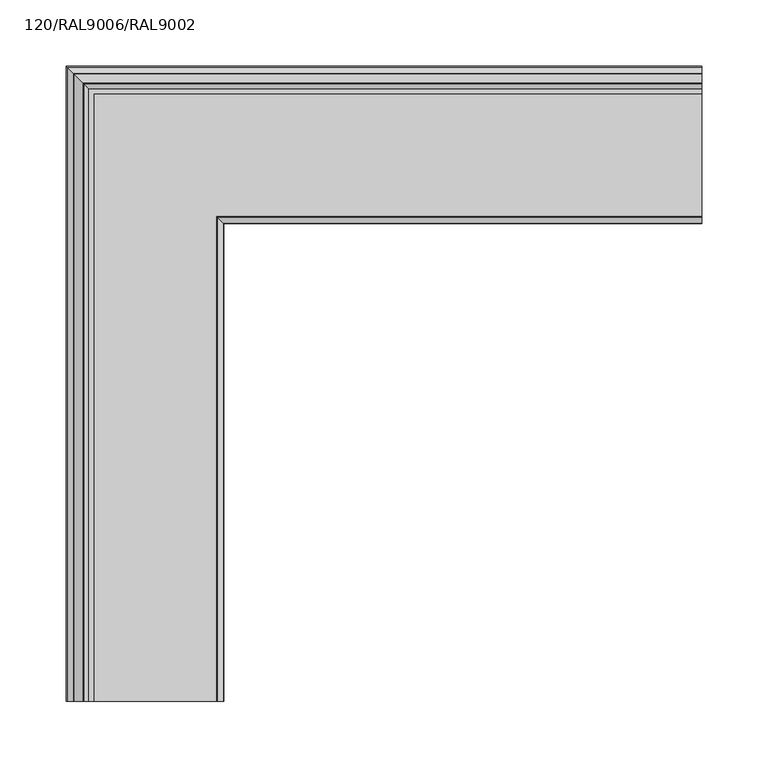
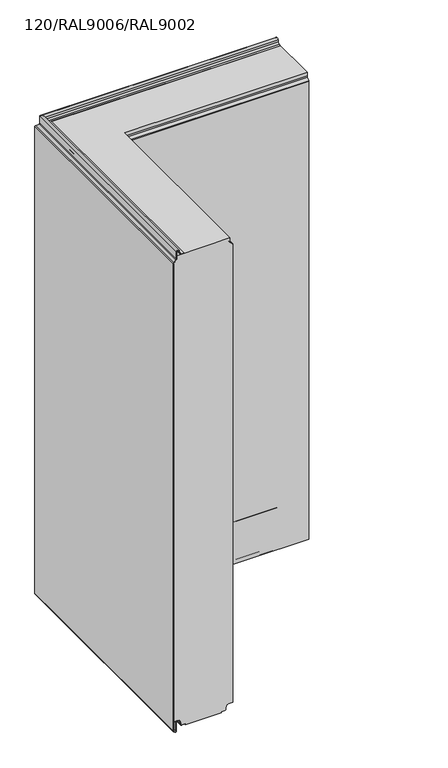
"""IFC4 building model written with IfcOpenShell, lengths in millimetres: plate geometry, TR_C_H_FTV_Corner_Tr_B : 120/RAL9006/RAL9002."""

import ifcopenshell
import ifcopenshell.guid

model = None  # the IFC model being written
_history = None  # IfcOwnerHistory: only IFC2X3 demands one
_inside = {}  # id of a spatial element -> (the spatial element, [elements in it])
_under = {}  # id of a project, library or spatial element -> (it, [spatial elements below it])
_declared = {}  # id of a project -> (the project, [libraries it declares])
_typed = {}  # id of a type object -> (the type object, [elements of that type])
_made_of = {}  # id of a material, layer set ... -> (it, [elements and type objects made of it])


def new_model(schema):
    """Start an empty IFC model of exactly this schema.

    Asked for "IFC4X3", IfcOpenShell would pick the latest addendum, in which some entities
    have other attributes; the version numbers below select the first issue.
    IFC2X3 requires an IfcOwnerHistory on every rooted entity: one is made here for all.
    """
    global model, _history
    if schema == "IFC4X3":
        model = ifcopenshell.file(schema_version=(4, 3, 0, 0))
    else:
        model = ifcopenshell.file(schema=schema)
    _inside.clear()
    _under.clear()
    _declared.clear()
    _typed.clear()
    _made_of.clear()
    _history = None
    if model.schema == "IFC2X3":
        org = make("IfcOrganization", Name="unknown")
        user = make(
            "IfcPersonAndOrganization",
            ThePerson=make("IfcPerson", FamilyName="unknown"),
            TheOrganization=org,
        )
        app = make(
            "IfcApplication",
            ApplicationDeveloper=org,
            Version="unknown",
            ApplicationFullName="unknown",
            ApplicationIdentifier="unknown",
        )
        _history = make(
            "IfcOwnerHistory",
            OwningUser=user,
            OwningApplication=app,
            ChangeAction="ADDED",
            CreationDate=0,
        )
    return model


def make(cls, **values):
    """One entity of the class cls with the attributes given. An attribute that is None is left unset."""
    return model.create_entity(
        cls, **{name: value for name, value in values.items() if value is not None}
    )


def rooted(cls, **values):
    """An entity with a GlobalId (a new one), such as an element, a storey or a relation."""
    return make(cls, GlobalId=ifcopenshell.guid.new(), OwnerHistory=_history, **values)


def si_unit(unit_type, name, prefix=None):
    """IfcSIUnit, for example si_unit("LENGTHUNIT", "METRE", prefix="MILLI")."""
    return make("IfcSIUnit", UnitType=unit_type, Prefix=prefix, Name=name)


def assignment(units):
    """IfcUnitAssignment: the units of a project."""
    return None if units is None else make("IfcUnitAssignment", Units=units)


def point(xyz):
    """IfcCartesianPoint."""
    return None if xyz is None else make("IfcCartesianPoint", Coordinates=xyz)


def direction(xyz):
    """IfcDirection."""
    return None if xyz is None else make("IfcDirection", DirectionRatios=xyz)


def frame(location, z_axis=None, x_axis=None):
    """IfcAxis2Placement3D, a coordinate frame: its origin and axes. An axis left out is left unset."""
    return make(
        "IfcAxis2Placement3D",
        Location=point(location),
        Axis=direction(z_axis),
        RefDirection=direction(x_axis),
    )


def origin():
    """The frame at (0, 0, 0) with its axes left unset."""
    return frame((0.0, 0.0, 0.0))


def place(relative_to, where):
    """IfcLocalPlacement: puts the frame where relative to a parent placement (None: the world)."""
    return make(
        "IfcLocalPlacement", PlacementRelTo=relative_to, RelativePlacement=where
    )


def context(
    kind, dimensions, precision=None, world=None, true_north=None, identifier=None
):
    """IfcGeometricRepresentationContext, for example the 3D "Model" context."""
    return make(
        "IfcGeometricRepresentationContext",
        ContextIdentifier=identifier,
        ContextType=kind,
        CoordinateSpaceDimension=dimensions,
        Precision=precision,
        WorldCoordinateSystem=world,
        TrueNorth=true_north,
    )


def project(units=None, contexts=None):
    """IfcProject with its units and contexts."""
    return rooted(
        "IfcProject",
        Name="project",
        RepresentationContexts=contexts,
        UnitsInContext=assignment(units),
    )


def spatial(cls, under=None, at=None, **own):
    """A site, building, storey or space (cls), placed at a placement, below another one or the project."""
    s = rooted(cls, ObjectPlacement=at, **own)
    if under is not None:
        _under.setdefault(under.id(), (under, []))[1].append(s)
    return s


def polyline(points):
    """IfcPolyline through the points."""
    return make("IfcPolyline", Points=[point(p) for p in points])


def circle_curve(where, radius):
    """IfcCircle in the frame where."""
    return make("IfcCircle", Position=where, Radius=radius)


def ellipse_curve(where, semi_axis1, semi_axis2):
    """IfcEllipse in the frame where."""
    return make(
        "IfcEllipse", Position=where, SemiAxis1=semi_axis1, SemiAxis2=semi_axis2
    )


def shape(context_of_items, identifier, shape_type, items):
    """IfcShapeRepresentation: the items that make up one representation, for example the "Body"."""
    return make(
        "IfcShapeRepresentation",
        ContextOfItems=context_of_items,
        RepresentationIdentifier=identifier,
        RepresentationType=shape_type,
        Items=items,
    )


def source(mapping_origin, context_of_items, identifier, shape_type, items):
    """IfcRepresentationMap: a shape defined once, which mapped items show again and again."""
    return make(
        "IfcRepresentationMap",
        MappingOrigin=mapping_origin,
        MappedRepresentation=shape(context_of_items, identifier, shape_type, items),
    )


def transform(
    local_origin,
    x_axis=None,
    y_axis=None,
    z_axis=None,
    scale=None,
    scale2=None,
    scale3=None,
    uniform=True,
):
    """IfcCartesianTransformationOperator3D, or its non-uniform kind. x_axis, y_axis, z_axis: its Axis1, 2, 3."""
    if uniform:
        return make(
            "IfcCartesianTransformationOperator3D",
            Axis1=direction(x_axis),
            Axis2=direction(y_axis),
            LocalOrigin=point(local_origin),
            Scale=scale,
            Axis3=direction(z_axis),
        )
    return make(
        "IfcCartesianTransformationOperator3DnonUniform",
        Axis1=direction(x_axis),
        Axis2=direction(y_axis),
        LocalOrigin=point(local_origin),
        Scale=scale,
        Axis3=direction(z_axis),
        Scale2=scale2,
        Scale3=scale3,
    )


def mapped(mapping_source, mapping_target):
    """IfcMappedItem: shows the shape of a source again, moved by a transform."""
    return make(
        "IfcMappedItem", MappingSource=mapping_source, MappingTarget=mapping_target
    )


def made_of(thing, what):
    """Note that an element or type object is made of a material, layer set ...; save() writes the relation."""
    if what is not None:
        _made_of.setdefault(what.id(), (what, []))[1].append(thing)
    return thing


def element(
    cls,
    number,
    at=None,
    inside=None,
    cuts=None,
    type_object=None,
    material=None,
    context=None,
    identifier="Body",
    shape_type=None,
    held_by="IfcProductDefinitionShape",
    body=None,
    shapes=None,
    **own,
):
    """One element of the class cls, such as IfcWall. Its Tag is "e" and its number.

    at: its placement. inside: the storey or other place that contains it. cuts: it is an
    opening in that element (IfcRelVoidsElement). A single representation is given by context,
    identifier, shape_type and body (its items); several are given by shapes. held_by: the class
    of the entity that holds the representations. save() writes the other relations.
    """
    e = rooted(cls, Tag="e%d" % number, ObjectPlacement=at, **own)
    if body is not None:
        shapes = [shape(context, identifier, shape_type, body)]
    if shapes is not None:
        e.Representation = make(held_by, Representations=shapes)
    if inside is not None:
        _inside.setdefault(inside.id(), (inside, []))[1].append(e)
    if cuts is not None:
        rooted(
            "IfcRelVoidsElement", RelatingBuildingElement=cuts, RelatedOpeningElement=e
        )
    if type_object is not None:
        _typed.setdefault(type_object.id(), (type_object, []))[1].append(e)
    return made_of(e, material)


def aggregate(whole, parts):
    """IfcRelAggregates: a whole, such as a stair, and the parts it consists of."""
    return rooted("IfcRelAggregates", RelatingObject=whole, RelatedObjects=parts)


def save(model, path):
    """Write the relations noted so far, then the file.

    IfcRelAggregates (storeys below a building ...), IfcRelContainedInSpatialStructure (elements
    in a storey), IfcRelDefinesByType, IfcRelAssociatesMaterial and IfcRelDeclares: one each for
    every whole, place, type object, material and project.
    """
    for whole, parts in _under.values():
        aggregate(whole, parts)
    for where, things in _inside.values():
        rooted(
            "IfcRelContainedInSpatialStructure",
            RelatedElements=things,
            RelatingStructure=where,
        )
    for kind, things in _typed.values():
        rooted("IfcRelDefinesByType", RelatedObjects=things, RelatingType=kind)
    for what, things in _made_of.values():
        rooted("IfcRelAssociatesMaterial", RelatedObjects=things, RelatingMaterial=what)
    for by, libraries in _declared.values():
        rooted("IfcRelDeclares", RelatingContext=by, RelatedDefinitions=libraries)
    model.write(path)


def plane_surface(at):
    """IfcPlane: the flat surface through the origin of the frame at, square to its z axis."""
    return make("IfcPlane", Position=at)


def cylinder_surface(at, radius):
    """IfcCylindricalSurface: all points at the distance radius from the z axis of the frame at."""
    return make("IfcCylindricalSurface", Position=at, Radius=radius)


def revolved_surface(curve, axis_point, axis_direction):
    """IfcSurfaceOfRevolution: the curve turned about the line through axis_point along axis_direction."""
    return make(
        "IfcSurfaceOfRevolution",
        SweptCurve=make("IfcArbitraryOpenProfileDef", ProfileType="CURVE", Curve=curve),
        AxisPosition=make("IfcAxis1Placement", Location=point(axis_point), Axis=direction(axis_direction)),
    )


def advanced_brep(points, edges, surfaces, faces):
    """IfcAdvancedBrep: a solid bounded by faces that lie on surfaces and meet in shared edges.

    An edge is (start, end): straight between two places in points (the first is 0);
    or (start, end, curve); or (start, end, curve, False) where it runs against its curve.
    A face is (place in surfaces, loops), or (place, loops, False) where it looks against
    its surface's normal. A loop lists edges by number (the first is 1), with a minus sign
    where the edge is run from its end to its start. The first loop is the outer one.
    """
    corners = [point(p) for p in points]
    vertices = [make("IfcVertexPoint", VertexGeometry=c) for c in corners]
    made = []
    for start, end, *more in edges:
        made.append(
            make(
                "IfcEdgeCurve",
                EdgeStart=vertices[start],
                EdgeEnd=vertices[end],
                EdgeGeometry=more[0] if more else make("IfcPolyline", Points=[corners[start], corners[end]]),
                SameSense=more[1] if len(more) > 1 else True,
            )
        )
    hull = []
    for where, loops, *sense in faces:
        bounds = []
        for j, loop in enumerate(loops):
            ring = [make("IfcOrientedEdge", EdgeElement=made[abs(k) - 1], Orientation=k > 0) for k in loop]
            bounds.append(
                make(
                    "IfcFaceOuterBound" if j == 0 else "IfcFaceBound",
                    Bound=make("IfcEdgeLoop", EdgeList=ring),
                    Orientation=True,
                )
            )
        hull.append(make("IfcAdvancedFace", Bounds=bounds, FaceSurface=surfaces[where], SameSense=sense[0] if sense else True))
    return make("IfcAdvancedBrep", Outer=make("IfcClosedShell", CfsFaces=hull))


def plate_120_ral9006_ral9002_db5e3afc(model_context):
    return source(origin(), model_context, "Body", "AdvancedBrep", [
        advanced_brep(
        [(240.0, -6.8, 1000.0), (240.0, -113.2, 1000.0), (240.0, -113.2, 992.6000012), (240.0, -114.1665476, 990.2665488), (240.0, -118.5556349, 985.8774615), (240.0, -119.2, 984.3218266), (240.0, -119.2, 14.4000012), (240.0, -110.55, 14.4000012), (240.0, -106.364567, 10.8880059), (240.0, -105.2977418, 4.837739), (240.0, -102.3925589, 2.4000012), (240.0, -96.3, 2.4000012), (240.0, -96.3, 0.0), (240.0, -23.7, 0.0), (240.0, -23.7, 2.4000012), (240.0, -17.6074411, 2.4000012), (240.0, -14.7022582, 4.837739), (240.0, -13.635433, 10.8880059), (240.0, -9.45, 14.4000012), (240.0, -0.8, 14.4000012), (240.0, -0.8, 984.3218266), (240.0, -1.4443651, 985.8774615), (240.0, -5.8334524, 990.2665488), (240.0, -6.8, 992.6000012), (-233.2, -6.8, 1000.0), (-233.2, -480.0, 1000.0), (-126.8, -480.0, 1000.0), (-126.8, -113.2, 1000.0), (-126.8, -113.2, 992.6000012), (-125.8334524, -114.1665476, 990.2665488), (-121.4443651, -118.5556349, 985.8774615), (-120.8, -119.2, 984.3218266), (-120.8, -119.2, 14.4000012), (-120.8, -480.0, 14.4000012), (-129.45, -480.0, 14.4000012), (-129.45, -110.55, 14.4000012), (-133.635433, -106.364567, 10.8880059), (-134.7022582, -105.2977418, 4.837739), (-137.6074411, -102.3925589, 2.4000012), (-137.6074411, -480.0, 2.4000012), (-143.7, -480.0, 2.4000012), (-143.7, -96.3, 2.4000012), (-143.7, -96.3, 0.0), (-143.7, -480.0, 0.0), (-216.3, -480.0, 0.0), (-216.3, -23.7, 0.0), (-216.3, -23.7, 2.4000012), (-216.3, -480.0, 2.4000012), (-222.3925589, -480.0, 2.4000012), (-222.3925589, -17.6074411, 2.4000012), (-225.2977418, -14.7022582, 4.837739), (-226.364567, -13.635433, 10.8880059), (-230.55, -9.45, 14.4000012), (-230.55, -480.0, 14.4000012), (-239.2, -480.0, 14.4000012), (-239.2, -0.8, 14.4000012), (-239.2, -0.8, 984.3218266), (-238.5556349, -1.4443651, 985.8774615), (-234.1665476, -5.8334524, 990.2665488), (-233.2, -6.8, 992.6000012), (-233.2, -480.0, 992.6000012), (-234.1665476, -480.0, 990.2665488), (-238.5556349, -480.0, 985.8774615), (-239.2, -480.0, 984.3218266), (-226.364567, -480.0, 10.8880059), (-225.2977418, -480.0, 4.837739), (-134.7022582, -480.0, 4.837739), (-133.635433, -480.0, 10.8880059), (-120.8, -480.0, 984.3218266), (-121.4443651, -480.0, 985.8774615), (-125.8334524, -480.0, 990.2665488), (-126.8, -480.0, 992.6000012)],
        [
            (0, 1),
            (1, 2),
            (2, 3, circle_curve(frame((240.0, -116.5, 992.6000012), z_axis=(-1.0, 0.0, 0.0), x_axis=(0.0, -1.0, 0.0)), 3.3)),
            (3, 4),
            (4, 5, circle_curve(frame((240.0, -117.0, 984.3218266), z_axis=(1.0, 0.0, 0.0), x_axis=(0.0, -1.0, 0.0)), 2.2)),
            (5, 6),
            (6, 7),
            (7, 8, circle_curve(frame((240.0, -110.55, 10.1500012), z_axis=(-1.0, 0.0, 0.0), x_axis=(0.0, -1.0, 0.0)), 4.25)),
            (8, 9),
            (9, 10, circle_curve(frame((240.0, -102.3925589, 5.3500012), z_axis=(1.0, 0.0, 0.0), x_axis=(0.0, -1.0, 0.0)), 2.95)),
            (10, 11),
            (11, 12),
            (12, 13),
            (13, 14),
            (14, 15),
            (15, 16, circle_curve(frame((240.0, -17.6074411, 5.3500012), z_axis=(1.0, 0.0, 0.0), x_axis=(0.0, -1.0, 0.0)), 2.95)),
            (16, 17),
            (17, 18, circle_curve(frame((240.0, -9.45, 10.1500012), z_axis=(-1.0, 0.0, 0.0), x_axis=(0.0, -1.0, 0.0)), 4.25)),
            (18, 19),
            (19, 20),
            (20, 21, circle_curve(frame((240.0, -3.0, 984.3218266), z_axis=(1.0, 0.0, 0.0), x_axis=(0.0, -1.0, 0.0)), 2.2)),
            (21, 22),
            (22, 23, circle_curve(frame((240.0, -3.5, 992.6000012), z_axis=(-1.0, 0.0, 0.0), x_axis=(0.0, -1.0, 0.0)), 3.3)),
            (23, 0),
            (0, 24),
            (24, 25),
            (25, 26),
            (26, 27),
            (27, 1),
            (27, 28),
            (28, 2),
            (28, 29, ellipse_curve(frame((-123.5, -116.5, 992.6000012), z_axis=(-0.7071067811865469, -0.7071067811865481, 0.0), x_axis=(-0.7071067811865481, 0.7071067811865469, 0.0)), 4.6669048, 3.3)),
            (29, 3),
            (29, 30),
            (30, 4),
            (30, 31, ellipse_curve(frame((-123.0, -117.0, 984.3218266), z_axis=(0.7071067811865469, 0.7071067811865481, 0.0), x_axis=(0.7071067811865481, -0.7071067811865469, 0.0)), 3.1112698, 2.2)),
            (31, 5),
            (31, 32),
            (32, 6),
            (32, 33),
            (33, 34),
            (34, 35),
            (35, 7),
            (35, 36, ellipse_curve(frame((-129.45, -110.55, 10.1500012), z_axis=(-0.7071067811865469, -0.7071067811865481, 0.0), x_axis=(-0.7071067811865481, 0.7071067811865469, 0.0)), 6.0104076, 4.25)),
            (36, 8),
            (36, 37),
            (37, 9),
            (37, 38, ellipse_curve(frame((-137.6074411, -102.3925589, 5.3500012), z_axis=(0.7071067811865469, 0.7071067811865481, 0.0), x_axis=(0.7071067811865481, -0.7071067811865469, 0.0)), 4.17193, 2.95)),
            (38, 10),
            (38, 39),
            (39, 40),
            (40, 41),
            (41, 11),
            (41, 42),
            (42, 12),
            (42, 43),
            (43, 44),
            (44, 45),
            (45, 13),
            (45, 46),
            (46, 14),
            (46, 47),
            (47, 48),
            (48, 49),
            (49, 15),
            (49, 50, ellipse_curve(frame((-222.3925589, -17.6074411, 5.3500012), z_axis=(0.7071067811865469, 0.7071067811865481, 0.0), x_axis=(0.7071067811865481, -0.7071067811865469, 0.0)), 4.17193, 2.95)),
            (50, 16),
            (50, 51),
            (51, 17),
            (51, 52, ellipse_curve(frame((-230.55, -9.45, 10.1500012), z_axis=(-0.7071067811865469, -0.7071067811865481, 0.0), x_axis=(-0.7071067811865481, 0.7071067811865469, 0.0)), 6.0104076, 4.25)),
            (52, 18),
            (52, 53),
            (53, 54),
            (54, 55),
            (55, 19),
            (55, 56),
            (56, 20),
            (56, 57, ellipse_curve(frame((-237.0, -3.0, 984.3218266), z_axis=(0.7071067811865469, 0.7071067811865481, 0.0), x_axis=(0.7071067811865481, -0.7071067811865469, 0.0)), 3.1112698, 2.2)),
            (57, 21),
            (57, 58),
            (58, 22),
            (58, 59, ellipse_curve(frame((-236.5, -3.5, 992.6000012), z_axis=(-0.7071067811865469, -0.7071067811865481, 0.0), x_axis=(-0.7071067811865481, 0.7071067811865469, 0.0)), 4.6669048, 3.3)),
            (59, 23),
            (59, 24),
            (25, 60),
            (60, 61, circle_curve(frame((-236.5, -480.0, 992.6000012), z_axis=(0.0, 1.0, 0.0), x_axis=(1.0, 0.0, 0.0)), 3.3)),
            (61, 62),
            (62, 63, circle_curve(frame((-237.0, -480.0, 984.3218266), z_axis=(0.0, -1.0, 0.0), x_axis=(1.0, 0.0, 0.0)), 2.2)),
            (63, 54),
            (53, 64, circle_curve(frame((-230.55, -480.0, 10.1500012), z_axis=(0.0, 1.0, 0.0), x_axis=(1.0, 0.0, 0.0)), 4.25)),
            (64, 65),
            (65, 48, circle_curve(frame((-222.3925589, -480.0, 5.3500012), z_axis=(0.0, -1.0, 0.0), x_axis=(1.0, 0.0, 0.0)), 2.95)),
            (47, 44),
            (43, 40),
            (39, 66, circle_curve(frame((-137.6074411, -480.0, 5.3500012), z_axis=(0.0, -1.0, 0.0), x_axis=(1.0, 0.0, 0.0)), 2.95)),
            (66, 67),
            (67, 34, circle_curve(frame((-129.45, -480.0, 10.1500012), z_axis=(0.0, 1.0, 0.0), x_axis=(1.0, 0.0, 0.0)), 4.25)),
            (33, 68),
            (68, 69, circle_curve(frame((-123.0, -480.0, 984.3218266), z_axis=(0.0, -1.0, 0.0), x_axis=(1.0, 0.0, 0.0)), 2.2)),
            (69, 70),
            (70, 71, circle_curve(frame((-123.5, -480.0, 992.6000012), z_axis=(0.0, 1.0, 0.0), x_axis=(1.0, 0.0, 0.0)), 3.3)),
            (71, 26),
            (71, 28),
            (70, 29),
            (69, 30),
            (68, 31),
            (67, 36),
            (66, 37),
            (65, 50),
            (64, 51),
            (63, 56),
            (62, 57),
            (61, 58),
            (60, 59),
        ],
        [
            plane_surface(frame((240.0, 0.0, 0.0), z_axis=(1.0, 0.0, 0.0), x_axis=(0.0, 0.0, 1.0))),
            plane_surface(frame((240.0, -6.8, 1000.0), z_axis=(0.0, 0.0, 1.0), x_axis=(-1.0, 0.0, 0.0))),
            plane_surface(frame((240.0, -113.2, 1000.0), z_axis=(0.0, -1.0, 0.0), x_axis=(-1.0, 0.0, 0.0))),
            revolved_surface(polyline([(-126.80000003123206, -119.8, 992.6000012), (240.0, -119.8, 992.6000012)]), (240.0, -116.5, 992.6000012), (-1.0, 0.0, 0.0)),
            plane_surface(frame((240.0, -114.1665476, 990.2665488), z_axis=(0.0, -0.707106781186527, 0.707106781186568), x_axis=(-1.0, 0.0, 0.0))),
            cylinder_surface(frame((240.0, -117.0, 984.3218266), z_axis=(1.0, 0.0, 0.0), x_axis=(0.0, -1.0, 0.0)), 2.2),
            plane_surface(frame((240.0, -119.2, 984.3218266), z_axis=(0.0, -1.0, 0.0), x_axis=(-1.0, 0.0, 0.0))),
            plane_surface(frame((240.0, -119.2, 14.4000012), z_axis=(0.0, 0.0, -1.0), x_axis=(-1.0, 0.0, 0.0))),
            revolved_surface(polyline([(-133.69999997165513, -114.8, 10.1500012), (240.0, -114.8, 10.1500012)]), (240.0, -110.55, 10.1500012), (-1.0, 0.0, 0.0)),
            plane_surface(frame((240.0, -106.364567, 10.8880059), z_axis=(0.0, -0.9848077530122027, -0.17364817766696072), x_axis=(-1.0, 0.0, 0.0))),
            cylinder_surface(frame((240.0, -102.3925589, 5.3500012), z_axis=(1.0, 0.0, 0.0), x_axis=(0.0, -1.0, 0.0)), 2.95),
            plane_surface(frame((240.0, -102.3925589, 2.4000012), z_axis=(0.0, 0.0, -1.0), x_axis=(-1.0, 0.0, 0.0))),
            plane_surface(frame((240.0, -96.3, 2.4000012), z_axis=(0.0, -1.0, 0.0), x_axis=(-1.0, 0.0, 0.0))),
            plane_surface(frame((240.0, -96.3, 0.0), z_axis=(0.0, 0.0, -1.0), x_axis=(-1.0, 0.0, 0.0))),
            plane_surface(frame((240.0, -23.7, 0.0), z_axis=(0.0, 1.0, 0.0), x_axis=(-1.0, 0.0, 0.0))),
            plane_surface(frame((240.0, -23.7, 2.4000012), z_axis=(0.0, 0.0, -1.0), x_axis=(-1.0, 0.0, 0.0))),
            cylinder_surface(frame((240.0, -17.6074411, 5.3500012), z_axis=(1.0, 0.0, 0.0), x_axis=(0.0, -1.0, 0.0)), 2.95),
            plane_surface(frame((240.0, -14.7022582, 4.837739), z_axis=(0.0, 0.9848077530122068, -0.1736481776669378), x_axis=(-1.0, 0.0, 0.0))),
            revolved_surface(polyline([(-234.79999997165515, -13.7, 10.1500012), (240.0, -13.7, 10.1500012)]), (240.0, -9.45, 10.1500012), (-1.0, 0.0, 0.0)),
            plane_surface(frame((240.0, -9.45, 14.4000012), z_axis=(0.0, 0.0, -1.0), x_axis=(-1.0, 0.0, 0.0))),
            plane_surface(frame((240.0, -0.8, 14.4000012), z_axis=(0.0, 1.0, 0.0), x_axis=(-1.0, 0.0, 0.0))),
            cylinder_surface(frame((240.0, -3.0, 984.3218266), z_axis=(1.0, 0.0, 0.0), x_axis=(0.0, -1.0, 0.0)), 2.2),
            plane_surface(frame((240.0, -1.4443651, 985.8774615), z_axis=(0.0, 0.7071067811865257, 0.7071067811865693), x_axis=(-1.0, 0.0, 0.0))),
            revolved_surface(polyline([(-239.80000003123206, -6.8, 992.6000012), (240.0, -6.8, 992.6000012)]), (240.0, -3.5, 992.6000012), (-1.0, 0.0, 0.0)),
            plane_surface(frame((240.0, -6.8, 992.6000012), z_axis=(0.0, 1.0, 0.0), x_axis=(-1.0, 0.0, 0.0))),
            plane_surface(frame((-240.0, -480.0, 0.0), z_axis=(0.0, -1.0, 0.0), x_axis=(0.0, 0.0, 1.0))),
            plane_surface(frame((-126.8, -113.2, 1000.0), z_axis=(1.0, 0.0, 0.0), x_axis=(0.0, -1.0, 0.0))),
            revolved_surface(polyline([(-120.2, -480.0, 992.6000012), (-120.2, -113.19999996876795, 992.6000012)]), (-123.5, 0.0, 992.6000012), (0.0, -1.0, 0.0)),
            plane_surface(frame((-125.8334524, -114.1665476, 990.2665488), z_axis=(0.707106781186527, 0.0, 0.707106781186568), x_axis=(0.0, -1.0, 0.0))),
            cylinder_surface(frame((-123.0, 0.0, 984.3218266), z_axis=(0.0, 1.0, 0.0), x_axis=(1.0, 0.0, 0.0)), 2.2),
            plane_surface(frame((-120.8, -119.2, 984.3218266), z_axis=(1.0, 0.0, 0.0), x_axis=(0.0, -1.0, 0.0))),
            revolved_surface(polyline([(-125.19999999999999, -480.0, 10.1500012), (-125.19999999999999, -106.30000002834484, 10.1500012)]), (-129.45, 0.0, 10.1500012), (0.0, -1.0, 0.0)),
            plane_surface(frame((-133.635433, -106.364567, 10.8880059), z_axis=(0.9848077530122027, 0.0, -0.17364817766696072), x_axis=(0.0, -1.0, 0.0))),
            cylinder_surface(frame((-137.6074411, 0.0, 5.3500012), z_axis=(0.0, 1.0, 0.0), x_axis=(1.0, 0.0, 0.0)), 2.95),
            plane_surface(frame((-143.7, -96.3, 2.4000012), z_axis=(1.0, 0.0, 0.0), x_axis=(0.0, -1.0, 0.0))),
            plane_surface(frame((-216.3, -23.7, 0.0), z_axis=(-1.0, 0.0, 0.0), x_axis=(0.0, -1.0, 0.0))),
            cylinder_surface(frame((-222.3925589, 0.0, 5.3500012), z_axis=(0.0, 1.0, 0.0), x_axis=(1.0, 0.0, 0.0)), 2.95),
            plane_surface(frame((-225.2977418, -14.7022582, 4.837739), z_axis=(-0.9848077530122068, 0.0, -0.1736481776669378), x_axis=(0.0, -1.0, 0.0))),
            revolved_surface(polyline([(-226.3, -480.0, 10.1500012), (-226.3, -5.200000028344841, 10.1500012)]), (-230.55, 0.0, 10.1500012), (0.0, -1.0, 0.0)),
            plane_surface(frame((-239.2, -0.8, 14.4000012), z_axis=(-1.0, 0.0, 0.0), x_axis=(0.0, -1.0, 0.0))),
            cylinder_surface(frame((-237.0, 0.0, 984.3218266), z_axis=(0.0, 1.0, 0.0), x_axis=(1.0, 0.0, 0.0)), 2.2),
            plane_surface(frame((-238.5556349, -1.4443651, 985.8774615), z_axis=(-0.7071067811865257, 0.0, 0.7071067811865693), x_axis=(0.0, -1.0, 0.0))),
            revolved_surface(polyline([(-233.2, -480.0, 992.6000012), (-233.2, -0.19999996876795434, 992.6000012)]), (-236.5, 0.0, 992.6000012), (0.0, -1.0, 0.0)),
            plane_surface(frame((-233.2, -6.8, 992.6000012), z_axis=(-1.0, 0.0, 0.0), x_axis=(0.0, -1.0, 0.0))),
        ],
        [
            (0, [[1, 2, 3, 4, 5, 6, 7, 8, 9, 10, 11, 12, 13, 14, 15, 16, 17, 18, 19, 20, 21, 22, 23, 24]]),
            (1, [[-1, 25, 26, 27, 28, 29]]),
            (2, [[-2, -29, 30, 31]]),
            (3, [[-3, -31, 32, 33]]),
            (4, [[-4, -33, 34, 35]]),
            (5, [[-5, -35, 36, 37]]),
            (6, [[-6, -37, 38, 39]]),
            (7, [[-7, -39, 40, 41, 42, 43]]),
            (8, [[-8, -43, 44, 45]]),
            (9, [[-9, -45, 46, 47]]),
            (10, [[-10, -47, 48, 49]]),
            (11, [[-11, -49, 50, 51, 52, 53]]),
            (12, [[-12, -53, 54, 55]]),
            (13, [[-13, -55, 56, 57, 58, 59]]),
            (14, [[-14, -59, 60, 61]]),
            (15, [[-15, -61, 62, 63, 64, 65]]),
            (16, [[-16, -65, 66, 67]]),
            (17, [[-17, -67, 68, 69]]),
            (18, [[-18, -69, 70, 71]]),
            (19, [[-19, -71, 72, 73, 74, 75]]),
            (20, [[-20, -75, 76, 77]]),
            (21, [[-21, -77, 78, 79]]),
            (22, [[-22, -79, 80, 81]]),
            (23, [[-23, -81, 82, 83]]),
            (24, [[-24, -83, 84, -25]]),
            (25, [[85, 86, 87, 88, 89, -73, 90, 91, 92, -63, 93, -57, 94, -51, 95, 96, 97, -41, 98, 99, 100, 101, 102, -27]]),
            (26, [[-30, -28, -102, 103]]),
            (27, [[-32, -103, -101, 104]]),
            (28, [[-34, -104, -100, 105]]),
            (29, [[-36, -105, -99, 106]]),
            (30, [[-38, -106, -98, -40]]),
            (31, [[-44, -42, -97, 107]]),
            (32, [[-46, -107, -96, 108]]),
            (33, [[-48, -108, -95, -50]]),
            (34, [[-54, -52, -94, -56]]),
            (35, [[-60, -58, -93, -62]]),
            (36, [[-66, -64, -92, 109]]),
            (37, [[-68, -109, -91, 110]]),
            (38, [[-70, -110, -90, -72]]),
            (39, [[-76, -74, -89, 111]]),
            (40, [[-78, -111, -88, 112]]),
            (41, [[-80, -112, -87, 113]]),
            (42, [[-82, -113, -86, 114]]),
            (43, [[-84, -114, -85, -26]]),
        ],
    ),
        advanced_brep(
        [(240.0, -16.8869672, 999.8000012), (240.0, -12.4060919, 1003.559902), (240.0, -11.662779, 1007.7754392), (240.0, -6.8, 1007.3500012), (240.0, -6.8, 992.6000012), (240.0, -5.8334524, 990.2665488), (240.0, -1.4443651, 985.8774615), (240.0, -0.8, 984.3218266), (240.0, -0.8, -5.018628), (240.0, -1.3711418, -6.3974862), (240.0, -3.2368272, -8.2631716), (240.0, -5.2, -7.4499988), (240.0, -5.2, 10.1500012), (240.0, -13.635433, 10.8880059), (240.0, -14.7022582, 4.837739), (240.0, -17.6074411, 2.4000012), (240.0, -21.0, 2.4000012), (240.0, -21.0, 1.6000012), (240.0, -17.6074411, 1.6000012), (240.0, -13.914412, 4.6988205), (240.0, -12.8475867, 10.7490874), (240.0, -6.0, 10.1500012), (240.0, -6.0, -7.4499988), (240.0, -2.6711418, -8.8288571), (240.0, -0.8054564, -6.9631716), (240.0, 0.0, -5.018628), (240.0, 0.0, 984.3218266), (240.0, -0.8786797, 986.4431469), (240.0, -5.267767, 990.8322342), (240.0, -6.0, 992.6000012), (240.0, -6.0, 1007.3500012), (240.0, -12.4506252, 1007.9143577), (240.0, -13.1939382, 1003.6988205), (240.0, -16.8869672, 1000.6000012), (240.0, -21.0, 1000.6000012), (240.0, -21.0, 999.8000012), (-223.1130328, -16.8869672, 999.8000012), (-227.5939081, -12.4060919, 1003.559902), (-228.337221, -11.662779, 1007.7754392), (-233.2, -6.8, 1007.3500012), (-233.2, -6.8, 992.6000012), (-234.1665476, -5.8334524, 990.2665488), (-238.5556349, -1.4443651, 985.8774615), (-239.2, -0.8, 984.3218266), (-239.2, -0.8, -5.018628), (-238.6288582, -1.3711418, -6.3974862), (-236.7631728, -3.2368272, -8.2631716), (-234.8, -5.2, -7.4499988), (-234.8, -5.2, 10.1500012), (-226.364567, -13.635433, 10.8880059), (-225.2977418, -14.7022582, 4.837739), (-222.3925589, -17.6074411, 2.4000012), (-222.3925589, -480.0, 2.4000012), (-219.0, -480.0, 2.4000012), (-219.0, -21.0, 2.4000012), (-219.0, -21.0, 1.6000012), (-219.0, -480.0, 1.6000012), (-222.3925589, -480.0, 1.6000012), (-222.3925589, -17.6074411, 1.6000012), (-226.085588, -13.914412, 4.6988205), (-227.1524133, -12.8475867, 10.7490874), (-234.0, -6.0, 10.1500012), (-234.0, -6.0, -7.4499988), (-237.3288582, -2.6711418, -8.8288571), (-239.1945436, -0.8054564, -6.9631716), (-240.0, 0.0, -5.018628), (-240.0, 0.0, 984.3218266), (-239.1213203, -0.8786797, 986.4431469), (-234.732233, -5.267767, 990.8322342), (-234.0, -6.0, 992.6000012), (-234.0, -6.0, 1007.3500012), (-227.5493748, -12.4506252, 1007.9143577), (-226.8060618, -13.1939382, 1003.6988205), (-223.1130328, -16.8869672, 1000.6000012), (-223.1130328, -480.0, 1000.6000012), (-219.0, -480.0, 1000.6000012), (-219.0, -21.0, 1000.6000012), (-219.0, -21.0, 999.8000012), (-219.0, -480.0, 999.8000012), (-223.1130328, -480.0, 999.8000012), (-226.8060618, -480.0, 1003.6988205), (-227.5493748, -480.0, 1007.9143577), (-234.0, -480.0, 1007.3500012), (-234.0, -480.0, 992.6000012), (-234.732233, -480.0, 990.8322342), (-239.1213203, -480.0, 986.4431469), (-240.0, -480.0, 984.3218266), (-240.0, -480.0, -5.018628), (-239.1945436, -480.0, -6.9631716), (-237.3288582, -480.0, -8.8288571), (-234.0, -480.0, -7.4499988), (-234.0, -480.0, 10.1500012), (-227.1524133, -480.0, 10.7490874), (-226.085588, -480.0, 4.6988205), (-225.2977418, -480.0, 4.837739), (-226.364567, -480.0, 10.8880059), (-234.8, -480.0, 10.1500012), (-234.8, -480.0, -7.4499988), (-236.7631728, -480.0, -8.2631716), (-238.6288582, -480.0, -6.3974862), (-239.2, -480.0, -5.018628), (-239.2, -480.0, 984.3218266), (-238.5556349, -480.0, 985.8774615), (-234.1665476, -480.0, 990.2665488), (-233.2, -480.0, 992.6000012), (-233.2, -480.0, 1007.3500012), (-228.337221, -480.0, 1007.7754392), (-227.5939081, -480.0, 1003.559902)],
        [
            (0, 1, circle_curve(frame((240.0, -16.8869672, 1004.3500012), z_axis=(1.0, 0.0, 0.0), x_axis=(0.0, -1.0, 0.0)), 4.55)),
            (1, 2),
            (2, 3, circle_curve(frame((240.0, -9.25, 1007.3500012), z_axis=(-1.0, 0.0, 0.0), x_axis=(0.0, -1.0, 0.0)), 2.45)),
            (3, 4),
            (4, 5, circle_curve(frame((240.0, -3.5, 992.6000012), z_axis=(1.0, 0.0, 0.0), x_axis=(0.0, -1.0, 0.0)), 3.3)),
            (5, 6),
            (6, 7, circle_curve(frame((240.0, -3.0, 984.3218266), z_axis=(-1.0, 0.0, 0.0), x_axis=(0.0, -1.0, 0.0)), 2.2)),
            (7, 8),
            (8, 9, circle_curve(frame((240.0, -2.75, -5.018628), z_axis=(-1.0, 0.0, 0.0), x_axis=(0.0, -1.0, 0.0)), 1.95)),
            (9, 10),
            (10, 11, circle_curve(frame((240.0, -4.05, -7.4499988), z_axis=(-1.0, 0.0, 0.0), x_axis=(0.0, -1.0, 0.0)), 1.15)),
            (11, 12),
            (12, 13, circle_curve(frame((240.0, -9.45, 10.1500012), z_axis=(1.0, 0.0, 0.0), x_axis=(0.0, -1.0, 0.0)), 4.25)),
            (13, 14),
            (14, 15, circle_curve(frame((240.0, -17.6074411, 5.3500012), z_axis=(-1.0, 0.0, 0.0), x_axis=(0.0, -1.0, 0.0)), 2.95)),
            (15, 16),
            (16, 17),
            (17, 18),
            (18, 19, circle_curve(frame((240.0, -17.6074411, 5.3500012), z_axis=(1.0, 0.0, 0.0), x_axis=(0.0, -1.0, 0.0)), 3.75)),
            (19, 20),
            (20, 21, circle_curve(frame((240.0, -9.45, 10.1500012), z_axis=(-1.0, 0.0, 0.0), x_axis=(0.0, -1.0, 0.0)), 3.45)),
            (21, 22),
            (22, 23, circle_curve(frame((240.0, -4.05, -7.4499988), z_axis=(1.0, 0.0, 0.0), x_axis=(0.0, -1.0, 0.0)), 1.95)),
            (23, 24),
            (24, 25, circle_curve(frame((240.0, -2.75, -5.018628), z_axis=(1.0, 0.0, 0.0), x_axis=(0.0, -1.0, 0.0)), 2.75)),
            (25, 26),
            (26, 27, circle_curve(frame((240.0, -3.0, 984.3218266), z_axis=(1.0, 0.0, 0.0), x_axis=(0.0, -1.0, 0.0)), 3.0)),
            (27, 28),
            (28, 29, circle_curve(frame((240.0, -3.5, 992.6000012), z_axis=(-1.0, 0.0, 0.0), x_axis=(0.0, -1.0, 0.0)), 2.5)),
            (29, 30),
            (30, 31, circle_curve(frame((240.0, -9.25, 1007.3500012), z_axis=(1.0, 0.0, 0.0), x_axis=(0.0, -1.0, 0.0)), 3.25)),
            (31, 32),
            (32, 33, circle_curve(frame((240.0, -16.8869672, 1004.3500012), z_axis=(-1.0, 0.0, 0.0), x_axis=(0.0, -1.0, 0.0)), 3.75)),
            (33, 34),
            (34, 35),
            (35, 0),
            (0, 36),
            (36, 37, ellipse_curve(frame((-223.1130328, -16.8869672, 1004.3500012), z_axis=(0.7071067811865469, 0.7071067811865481, 0.0), x_axis=(0.7071067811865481, -0.7071067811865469, 0.0)), 6.4346717, 4.55)),
            (37, 1),
            (37, 38),
            (38, 2),
            (38, 39, ellipse_curve(frame((-230.75, -9.25, 1007.3500012), z_axis=(-0.7071067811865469, -0.7071067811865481, 0.0), x_axis=(-0.7071067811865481, 0.7071067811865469, 0.0)), 3.4648232, 2.45)),
            (39, 3),
            (39, 40),
            (40, 4),
            (40, 41, ellipse_curve(frame((-236.5, -3.5, 992.6000012), z_axis=(0.7071067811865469, 0.7071067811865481, 0.0), x_axis=(0.7071067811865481, -0.7071067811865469, 0.0)), 4.6669048, 3.3)),
            (41, 5),
            (41, 42),
            (42, 6),
            (42, 43, ellipse_curve(frame((-237.0, -3.0, 984.3218266), z_axis=(-0.7071067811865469, -0.7071067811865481, 0.0), x_axis=(-0.7071067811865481, 0.7071067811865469, 0.0)), 3.1112698, 2.2)),
            (43, 7),
            (43, 44),
            (44, 8),
            (44, 45, ellipse_curve(frame((-237.25, -2.75, -5.018628), z_axis=(-0.7071067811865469, -0.7071067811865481, 0.0), x_axis=(-0.7071067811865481, 0.7071067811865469, 0.0)), 2.7577164, 1.95)),
            (45, 9),
            (45, 46),
            (46, 10),
            (46, 47, ellipse_curve(frame((-235.95, -4.05, -7.4499988), z_axis=(-0.7071067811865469, -0.7071067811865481, 0.0), x_axis=(-0.7071067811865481, 0.7071067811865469, 0.0)), 1.6263456, 1.15)),
            (47, 11),
            (47, 48),
            (48, 12),
            (48, 49, ellipse_curve(frame((-230.55, -9.45, 10.1500012), z_axis=(0.7071067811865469, 0.7071067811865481, 0.0), x_axis=(0.7071067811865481, -0.7071067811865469, 0.0)), 6.0104076, 4.25)),
            (49, 13),
            (49, 50),
            (50, 14),
            (50, 51, ellipse_curve(frame((-222.3925589, -17.6074411, 5.3500012), z_axis=(-0.7071067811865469, -0.7071067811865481, 0.0), x_axis=(-0.7071067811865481, 0.7071067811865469, 0.0)), 4.17193, 2.95)),
            (51, 15),
            (51, 52),
            (52, 53),
            (53, 54),
            (54, 16),
            (54, 55),
            (55, 17),
            (55, 56),
            (56, 57),
            (57, 58),
            (58, 18),
            (58, 59, ellipse_curve(frame((-222.3925589, -17.6074411, 5.3500012), z_axis=(0.7071067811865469, 0.7071067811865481, 0.0), x_axis=(0.7071067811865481, -0.7071067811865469, 0.0)), 5.3033009, 3.75)),
            (59, 19),
            (59, 60),
            (60, 20),
            (60, 61, ellipse_curve(frame((-230.55, -9.45, 10.1500012), z_axis=(-0.7071067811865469, -0.7071067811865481, 0.0), x_axis=(-0.7071067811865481, 0.7071067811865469, 0.0)), 4.8790368, 3.45)),
            (61, 21),
            (61, 62),
            (62, 22),
            (62, 63, ellipse_curve(frame((-235.95, -4.05, -7.4499988), z_axis=(0.7071067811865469, 0.7071067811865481, 0.0), x_axis=(0.7071067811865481, -0.7071067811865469, 0.0)), 2.7577164, 1.95)),
            (63, 23),
            (63, 64),
            (64, 24),
            (64, 65, ellipse_curve(frame((-237.25, -2.75, -5.018628), z_axis=(0.7071067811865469, 0.7071067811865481, 0.0), x_axis=(0.7071067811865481, -0.7071067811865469, 0.0)), 3.8890873, 2.75)),
            (65, 25),
            (65, 66),
            (66, 26),
            (66, 67, ellipse_curve(frame((-237.0, -3.0, 984.3218266), z_axis=(0.7071067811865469, 0.7071067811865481, 0.0), x_axis=(0.7071067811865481, -0.7071067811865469, 0.0)), 4.2426407, 3.0)),
            (67, 27),
            (67, 68),
            (68, 28),
            (68, 69, ellipse_curve(frame((-236.5, -3.5, 992.6000012), z_axis=(-0.7071067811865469, -0.7071067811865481, 0.0), x_axis=(-0.7071067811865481, 0.7071067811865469, 0.0)), 3.5355339, 2.5)),
            (69, 29),
            (69, 70),
            (70, 30),
            (70, 71, ellipse_curve(frame((-230.75, -9.25, 1007.3500012), z_axis=(0.7071067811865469, 0.7071067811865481, 0.0), x_axis=(0.7071067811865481, -0.7071067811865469, 0.0)), 4.5961941, 3.25)),
            (71, 31),
            (71, 72),
            (72, 32),
            (72, 73, ellipse_curve(frame((-223.1130328, -16.8869672, 1004.3500012), z_axis=(-0.7071067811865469, -0.7071067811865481, 0.0), x_axis=(-0.7071067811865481, 0.7071067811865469, 0.0)), 5.3033009, 3.75)),
            (73, 33),
            (73, 74),
            (74, 75),
            (75, 76),
            (76, 34),
            (76, 77),
            (77, 35),
            (77, 78),
            (78, 79),
            (79, 36),
            (78, 75),
            (74, 80, circle_curve(frame((-223.1130328, -480.0, 1004.3500012), z_axis=(0.0, 1.0, 0.0), x_axis=(1.0, 0.0, 0.0)), 3.75)),
            (80, 81),
            (81, 82, circle_curve(frame((-230.75, -480.0, 1007.3500012), z_axis=(0.0, -1.0, 0.0), x_axis=(1.0, 0.0, 0.0)), 3.25)),
            (82, 83),
            (83, 84, circle_curve(frame((-236.5, -480.0, 992.6000012), z_axis=(0.0, 1.0, 0.0), x_axis=(1.0, 0.0, 0.0)), 2.5)),
            (84, 85),
            (85, 86, circle_curve(frame((-237.0, -480.0, 984.3218266), z_axis=(0.0, -1.0, 0.0), x_axis=(1.0, 0.0, 0.0)), 3.0)),
            (86, 87),
            (87, 88, circle_curve(frame((-237.25, -480.0, -5.018628), z_axis=(0.0, -1.0, 0.0), x_axis=(1.0, 0.0, 0.0)), 2.75)),
            (88, 89),
            (89, 90, circle_curve(frame((-235.95, -480.0, -7.4499988), z_axis=(0.0, -1.0, 0.0), x_axis=(1.0, 0.0, 0.0)), 1.95)),
            (90, 91),
            (91, 92, circle_curve(frame((-230.55, -480.0, 10.1500012), z_axis=(0.0, 1.0, 0.0), x_axis=(1.0, 0.0, 0.0)), 3.45)),
            (92, 93),
            (93, 57, circle_curve(frame((-222.3925589, -480.0, 5.3500012), z_axis=(0.0, -1.0, 0.0), x_axis=(1.0, 0.0, 0.0)), 3.75)),
            (56, 53),
            (52, 94, circle_curve(frame((-222.3925589, -480.0, 5.3500012), z_axis=(0.0, 1.0, 0.0), x_axis=(1.0, 0.0, 0.0)), 2.95)),
            (94, 95),
            (95, 96, circle_curve(frame((-230.55, -480.0, 10.1500012), z_axis=(0.0, -1.0, 0.0), x_axis=(1.0, 0.0, 0.0)), 4.25)),
            (96, 97),
            (97, 98, circle_curve(frame((-235.95, -480.0, -7.4499988), z_axis=(0.0, 1.0, 0.0), x_axis=(1.0, 0.0, 0.0)), 1.15)),
            (98, 99),
            (99, 100, circle_curve(frame((-237.25, -480.0, -5.018628), z_axis=(0.0, 1.0, 0.0), x_axis=(1.0, 0.0, 0.0)), 1.95)),
            (100, 101),
            (101, 102, circle_curve(frame((-237.0, -480.0, 984.3218266), z_axis=(0.0, 1.0, 0.0), x_axis=(1.0, 0.0, 0.0)), 2.2)),
            (102, 103),
            (103, 104, circle_curve(frame((-236.5, -480.0, 992.6000012), z_axis=(0.0, -1.0, 0.0), x_axis=(1.0, 0.0, 0.0)), 3.3)),
            (104, 105),
            (105, 106, circle_curve(frame((-230.75, -480.0, 1007.3500012), z_axis=(0.0, 1.0, 0.0), x_axis=(1.0, 0.0, 0.0)), 2.45)),
            (106, 107),
            (107, 79, circle_curve(frame((-223.1130328, -480.0, 1004.3500012), z_axis=(0.0, -1.0, 0.0), x_axis=(1.0, 0.0, 0.0)), 4.55)),
            (107, 37),
            (106, 38),
            (105, 39),
            (104, 40),
            (103, 41),
            (102, 42),
            (101, 43),
            (100, 44),
            (99, 45),
            (98, 46),
            (97, 47),
            (96, 48),
            (95, 49),
            (94, 50),
            (93, 59),
            (92, 60),
            (91, 61),
            (90, 62),
            (89, 63),
            (88, 64),
            (87, 65),
            (86, 66),
            (85, 67),
            (84, 68),
            (83, 69),
            (82, 70),
            (81, 71),
            (80, 72),
        ],
        [
            plane_surface(frame((240.0, 0.0, 0.0), z_axis=(1.0, 0.0, 0.0), x_axis=(0.0, 0.0, 1.0))),
            cylinder_surface(frame((240.0, -16.8869672, 1004.3500012), z_axis=(1.0, 0.0, 0.0), x_axis=(0.0, -1.0, 0.0)), 4.55),
            plane_surface(frame((240.0, -12.4060919, 1003.559902), z_axis=(0.0, 0.9848077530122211, -0.1736481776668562), x_axis=(-1.0, 0.0, 0.0))),
            revolved_surface(polyline([(-233.2, -11.7, 1007.3500012), (240.0, -11.7, 1007.3500012)]), (240.0, -9.25, 1007.3500012), (-1.0, 0.0, 0.0)),
            plane_surface(frame((240.0, -6.8, 1007.3500012), z_axis=(0.0, -1.0, 0.0), x_axis=(-1.0, 0.0, 0.0))),
            cylinder_surface(frame((240.0, -3.5, 992.6000012), z_axis=(1.0, 0.0, 0.0), x_axis=(0.0, -1.0, 0.0)), 3.3),
            plane_surface(frame((240.0, -5.8334524, 990.2665488), z_axis=(0.0, -0.7071067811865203, -0.7071067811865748), x_axis=(-1.0, 0.0, 0.0))),
            revolved_surface(polyline([(-239.2, -5.2, 984.3218266), (240.0, -5.2, 984.3218266)]), (240.0, -3.0, 984.3218266), (-1.0, 0.0, 0.0)),
            plane_surface(frame((240.0, -0.8, 984.3218266), z_axis=(0.0, -1.0, 0.0), x_axis=(-1.0, 0.0, 0.0))),
            revolved_surface(polyline([(-239.2, -4.7, -5.018628), (240.0, -4.7, -5.018628)]), (240.0, -2.75, -5.018628), (-1.0, 0.0, 0.0)),
            plane_surface(frame((240.0, -1.3711418, -6.3974862), z_axis=(0.0, -0.7071067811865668, 0.7071067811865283), x_axis=(-1.0, 0.0, 0.0))),
            revolved_surface(polyline([(-237.10000000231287, -5.199999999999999, -7.4499988), (240.0, -5.199999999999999, -7.4499988)]), (240.0, -4.05, -7.4499988), (-1.0, 0.0, 0.0)),
            plane_surface(frame((240.0, -5.2, -7.4499988), z_axis=(0.0, 1.0, 0.0), x_axis=(-1.0, 0.0, 0.0))),
            cylinder_surface(frame((240.0, -9.45, 10.1500012), z_axis=(1.0, 0.0, 0.0), x_axis=(0.0, -1.0, 0.0)), 4.25),
            plane_surface(frame((240.0, -13.635433, 10.8880059), z_axis=(0.0, -0.9848077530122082, 0.17364817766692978), x_axis=(-1.0, 0.0, 0.0))),
            revolved_surface(polyline([(-225.3425588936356, -20.5574411, 5.3500012), (240.0, -20.5574411, 5.3500012)]), (240.0, -17.6074411, 5.3500012), (-1.0, 0.0, 0.0)),
            plane_surface(frame((240.0, -17.6074411, 2.4000012), z_axis=(0.0, 0.0, 1.0), x_axis=(-1.0, 0.0, 0.0))),
            plane_surface(frame((240.0, -21.0, 2.4000012), z_axis=(0.0, -1.0, 0.0), x_axis=(-1.0, 0.0, 0.0))),
            plane_surface(frame((240.0, -21.0, 1.6000012), z_axis=(0.0, 0.0, -1.0), x_axis=(-1.0, 0.0, 0.0))),
            cylinder_surface(frame((240.0, -17.6074411, 5.3500012), z_axis=(1.0, 0.0, 0.0), x_axis=(0.0, -1.0, 0.0)), 3.75),
            plane_surface(frame((240.0, -13.914412, 4.6988205), z_axis=(0.0, 0.9848077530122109, -0.17364817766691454), x_axis=(-1.0, 0.0, 0.0))),
            revolved_surface(polyline([(-234.0000000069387, -12.899999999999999, 10.1500012), (240.0, -12.899999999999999, 10.1500012)]), (240.0, -9.45, 10.1500012), (-1.0, 0.0, 0.0)),
            plane_surface(frame((240.0, -6.0, 10.1500012), z_axis=(0.0, -1.0, 0.0), x_axis=(-1.0, 0.0, 0.0))),
            cylinder_surface(frame((240.0, -4.05, -7.4499988), z_axis=(1.0, 0.0, 0.0), x_axis=(0.0, -1.0, 0.0)), 1.95),
            plane_surface(frame((240.0, -2.6711418, -8.8288571), z_axis=(0.0, 0.7071067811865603, -0.7071067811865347), x_axis=(-1.0, 0.0, 0.0))),
            cylinder_surface(frame((240.0, -2.75, -5.018628), z_axis=(1.0, 0.0, 0.0), x_axis=(0.0, -1.0, 0.0)), 2.75),
            plane_surface(frame((240.0, 0.0, -5.018628), z_axis=(0.0, 1.0, 0.0), x_axis=(-1.0, 0.0, 0.0))),
            cylinder_surface(frame((240.0, -3.0, 984.3218266), z_axis=(1.0, 0.0, 0.0), x_axis=(0.0, -1.0, 0.0)), 3.0),
            plane_surface(frame((240.0, -0.8786797, 986.4431469), z_axis=(0.0, 0.7071067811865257, 0.7071067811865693), x_axis=(-1.0, 0.0, 0.0))),
            revolved_surface(polyline([(-238.9999999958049, -6.0, 992.6000012), (240.0, -6.0, 992.6000012)]), (240.0, -3.5, 992.6000012), (-1.0, 0.0, 0.0)),
            plane_surface(frame((240.0, -6.0, 992.6000012), z_axis=(0.0, 1.0, 0.0), x_axis=(-1.0, 0.0, 0.0))),
            cylinder_surface(frame((240.0, -9.25, 1007.3500012), z_axis=(1.0, 0.0, 0.0), x_axis=(0.0, -1.0, 0.0)), 3.25),
            plane_surface(frame((240.0, -12.4506252, 1007.9143577), z_axis=(0.0, -0.9848077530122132, 0.17364817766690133), x_axis=(-1.0, 0.0, 0.0))),
            revolved_surface(polyline([(-226.86303282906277, -20.6369672, 1004.3500012), (240.0, -20.6369672, 1004.3500012)]), (240.0, -16.8869672, 1004.3500012), (-1.0, 0.0, 0.0)),
            plane_surface(frame((240.0, -16.8869672, 1000.6000012), z_axis=(0.0, 0.0, 1.0), x_axis=(-1.0, 0.0, 0.0))),
            plane_surface(frame((240.0, -21.0, 1000.6000012), z_axis=(0.0, -1.0, 0.0), x_axis=(-1.0, 0.0, 0.0))),
            plane_surface(frame((240.0, -21.0, 999.8000012), z_axis=(0.0, 0.0, -1.0), x_axis=(-1.0, 0.0, 0.0))),
            plane_surface(frame((-240.0, -480.0, 0.0), z_axis=(0.0, -1.0, 0.0), x_axis=(0.0, 0.0, 1.0))),
            cylinder_surface(frame((-223.1130328, 0.0, 1004.3500012), z_axis=(0.0, 1.0, 0.0), x_axis=(1.0, 0.0, 0.0)), 4.55),
            plane_surface(frame((-227.5939081, -12.4060919, 1003.559902), z_axis=(-0.9848077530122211, 0.0, -0.1736481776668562), x_axis=(0.0, -1.0, 0.0))),
            revolved_surface(polyline([(-228.3, -480.0, 1007.3500012), (-228.3, -6.8, 1007.3500012)]), (-230.75, 0.0, 1007.3500012), (0.0, -1.0, 0.0)),
            plane_surface(frame((-233.2, -6.8, 1007.3500012), z_axis=(1.0, 0.0, 0.0), x_axis=(0.0, -1.0, 0.0))),
            cylinder_surface(frame((-236.5, 0.0, 992.6000012), z_axis=(0.0, 1.0, 0.0), x_axis=(1.0, 0.0, 0.0)), 3.3),
            plane_surface(frame((-234.1665476, -5.8334524, 990.2665488), z_axis=(0.7071067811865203, 0.0, -0.7071067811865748), x_axis=(0.0, -1.0, 0.0))),
            revolved_surface(polyline([(-234.8, -480.0, 984.3218266), (-234.8, -0.8, 984.3218266)]), (-237.0, 0.0, 984.3218266), (0.0, -1.0, 0.0)),
            plane_surface(frame((-239.2, -0.8, 984.3218266), z_axis=(1.0, 0.0, 0.0), x_axis=(0.0, -1.0, 0.0))),
            revolved_surface(polyline([(-235.3, -480.0, -5.018628), (-235.3, -0.8, -5.018628)]), (-237.25, 0.0, -5.018628), (0.0, -1.0, 0.0)),
            plane_surface(frame((-238.6288582, -1.3711418, -6.3974862), z_axis=(0.7071067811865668, 0.0, 0.7071067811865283), x_axis=(0.0, -1.0, 0.0))),
            revolved_surface(polyline([(-234.79999999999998, -480.0, -7.4499988), (-234.79999999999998, -2.8999999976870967, -7.4499988)]), (-235.95, 0.0, -7.4499988), (0.0, -1.0, 0.0)),
            plane_surface(frame((-234.8, -5.2, -7.4499988), z_axis=(-1.0, 0.0, 0.0), x_axis=(0.0, -1.0, 0.0))),
            cylinder_surface(frame((-230.55, 0.0, 10.1500012), z_axis=(0.0, 1.0, 0.0), x_axis=(1.0, 0.0, 0.0)), 4.25),
            plane_surface(frame((-226.364567, -13.635433, 10.8880059), z_axis=(0.9848077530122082, 0.0, 0.17364817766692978), x_axis=(0.0, -1.0, 0.0))),
            revolved_surface(polyline([(-219.44255890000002, -480.0, 5.3500012), (-219.44255890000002, -14.65744110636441, 5.3500012)]), (-222.3925589, 0.0, 5.3500012), (0.0, -1.0, 0.0)),
            plane_surface(frame((-219.0, -21.0, 2.4000012), z_axis=(1.0, 0.0, 0.0), x_axis=(0.0, -1.0, 0.0))),
            cylinder_surface(frame((-222.3925589, 0.0, 5.3500012), z_axis=(0.0, 1.0, 0.0), x_axis=(1.0, 0.0, 0.0)), 3.75),
            plane_surface(frame((-226.085588, -13.914412, 4.6988205), z_axis=(-0.9848077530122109, 0.0, -0.17364817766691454), x_axis=(0.0, -1.0, 0.0))),
            revolved_surface(polyline([(-227.10000000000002, -480.0, 10.1500012), (-227.10000000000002, -5.999999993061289, 10.1500012)]), (-230.55, 0.0, 10.1500012), (0.0, -1.0, 0.0)),
            plane_surface(frame((-234.0, -6.0, 10.1500012), z_axis=(1.0, 0.0, 0.0), x_axis=(0.0, -1.0, 0.0))),
            cylinder_surface(frame((-235.95, 0.0, -7.4499988), z_axis=(0.0, 1.0, 0.0), x_axis=(1.0, 0.0, 0.0)), 1.95),
            plane_surface(frame((-237.3288582, -2.6711418, -8.8288571), z_axis=(-0.7071067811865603, 0.0, -0.7071067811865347), x_axis=(0.0, -1.0, 0.0))),
            cylinder_surface(frame((-237.25, 0.0, -5.018628), z_axis=(0.0, 1.0, 0.0), x_axis=(1.0, 0.0, 0.0)), 2.75),
            plane_surface(frame((-240.0, 0.0, -5.018628), z_axis=(-1.0, 0.0, 0.0), x_axis=(0.0, -1.0, 0.0))),
            cylinder_surface(frame((-237.0, 0.0, 984.3218266), z_axis=(0.0, 1.0, 0.0), x_axis=(1.0, 0.0, 0.0)), 3.0),
            plane_surface(frame((-239.1213203, -0.8786797, 986.4431469), z_axis=(-0.7071067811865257, 0.0, 0.7071067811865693), x_axis=(0.0, -1.0, 0.0))),
            revolved_surface(polyline([(-234.0, -480.0, 992.6000012), (-234.0, -1.0000000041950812, 992.6000012)]), (-236.5, 0.0, 992.6000012), (0.0, -1.0, 0.0)),
            plane_surface(frame((-234.0, -6.0, 992.6000012), z_axis=(-1.0, 0.0, 0.0), x_axis=(0.0, -1.0, 0.0))),
            cylinder_surface(frame((-230.75, 0.0, 1007.3500012), z_axis=(0.0, 1.0, 0.0), x_axis=(1.0, 0.0, 0.0)), 3.25),
            plane_surface(frame((-227.5493748, -12.4506252, 1007.9143577), z_axis=(0.9848077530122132, 0.0, 0.17364817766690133), x_axis=(0.0, -1.0, 0.0))),
            revolved_surface(polyline([(-219.3630328, -480.0, 1004.3500012), (-219.3630328, -13.136967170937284, 1004.3500012)]), (-223.1130328, 0.0, 1004.3500012), (0.0, -1.0, 0.0)),
            plane_surface(frame((-219.0, -21.0, 1000.6000012), z_axis=(1.0, 0.0, 0.0), x_axis=(0.0, -1.0, 0.0))),
        ],
        [
            (0, [[1, 2, 3, 4, 5, 6, 7, 8, 9, 10, 11, 12, 13, 14, 15, 16, 17, 18, 19, 20, 21, 22, 23, 24, 25, 26, 27, 28, 29, 30, 31, 32, 33, 34, 35, 36]]),
            (1, [[-1, 37, 38, 39]]),
            (2, [[-2, -39, 40, 41]]),
            (3, [[-3, -41, 42, 43]]),
            (4, [[-4, -43, 44, 45]]),
            (5, [[-5, -45, 46, 47]]),
            (6, [[-6, -47, 48, 49]]),
            (7, [[-7, -49, 50, 51]]),
            (8, [[-8, -51, 52, 53]]),
            (9, [[-9, -53, 54, 55]]),
            (10, [[-10, -55, 56, 57]]),
            (11, [[-11, -57, 58, 59]]),
            (12, [[-12, -59, 60, 61]]),
            (13, [[-13, -61, 62, 63]]),
            (14, [[-14, -63, 64, 65]]),
            (15, [[-15, -65, 66, 67]]),
            (16, [[-16, -67, 68, 69, 70, 71]]),
            (17, [[-17, -71, 72, 73]]),
            (18, [[-18, -73, 74, 75, 76, 77]]),
            (19, [[-19, -77, 78, 79]]),
            (20, [[-20, -79, 80, 81]]),
            (21, [[-21, -81, 82, 83]]),
            (22, [[-22, -83, 84, 85]]),
            (23, [[-23, -85, 86, 87]]),
            (24, [[-24, -87, 88, 89]]),
            (25, [[-25, -89, 90, 91]]),
            (26, [[-26, -91, 92, 93]]),
            (27, [[-27, -93, 94, 95]]),
            (28, [[-28, -95, 96, 97]]),
            (29, [[-29, -97, 98, 99]]),
            (30, [[-30, -99, 100, 101]]),
            (31, [[-31, -101, 102, 103]]),
            (32, [[-32, -103, 104, 105]]),
            (33, [[-33, -105, 106, 107]]),
            (34, [[-34, -107, 108, 109, 110, 111]]),
            (35, [[-35, -111, 112, 113]]),
            (36, [[-36, -113, 114, 115, 116, -37]]),
            (37, [[-115, 117, -109, 118, 119, 120, 121, 122, 123, 124, 125, 126, 127, 128, 129, 130, 131, 132, -75, 133, -69, 134, 135, 136, 137, 138, 139, 140, 141, 142, 143, 144, 145, 146, 147, 148]]),
            (38, [[-38, -116, -148, 149]]),
            (39, [[-40, -149, -147, 150]]),
            (40, [[-42, -150, -146, 151]]),
            (41, [[-44, -151, -145, 152]]),
            (42, [[-46, -152, -144, 153]]),
            (43, [[-48, -153, -143, 154]]),
            (44, [[-50, -154, -142, 155]]),
            (45, [[-52, -155, -141, 156]]),
            (46, [[-54, -156, -140, 157]]),
            (47, [[-56, -157, -139, 158]]),
            (48, [[-58, -158, -138, 159]]),
            (49, [[-60, -159, -137, 160]]),
            (50, [[-62, -160, -136, 161]]),
            (51, [[-64, -161, -135, 162]]),
            (52, [[-66, -162, -134, -68]]),
            (53, [[-72, -70, -133, -74]]),
            (54, [[-78, -76, -132, 163]]),
            (55, [[-80, -163, -131, 164]]),
            (56, [[-82, -164, -130, 165]]),
            (57, [[-84, -165, -129, 166]]),
            (58, [[-86, -166, -128, 167]]),
            (59, [[-88, -167, -127, 168]]),
            (60, [[-90, -168, -126, 169]]),
            (61, [[-92, -169, -125, 170]]),
            (62, [[-94, -170, -124, 171]]),
            (63, [[-96, -171, -123, 172]]),
            (64, [[-98, -172, -122, 173]]),
            (65, [[-100, -173, -121, 174]]),
            (66, [[-102, -174, -120, 175]]),
            (67, [[-104, -175, -119, 176]]),
            (68, [[-106, -176, -118, -108]]),
            (69, [[-112, -110, -117, -114]]),
        ],
    ),
    ])


if __name__ == "__main__":
    model = new_model("IFC4")
    model_context = context("Model", 3, world=origin())
    ifc_project = project(units=[si_unit("LENGTHUNIT", "METRE", prefix="MILLI")], contexts=[model_context])
    site = spatial("IfcSite", under=ifc_project)
    building = spatial("IfcBuilding", under=site)
    placement = place(None, origin())
    plate_120_ral9006_ral9002_shape = plate_120_ral9006_ral9002_db5e3afc(model_context)
    element("IfcPlate", 1, ObjectType="TR_C_H_FTV_Corner_Tr_B : 120/RAL9006/RAL9002", at=placement, inside=building, context=model_context, shape_type="MappedRepresentation", body=[
        mapped(plate_120_ral9006_ral9002_shape, transform((0.0, 0.0, 0.0), x_axis=(1.0, 0.0, 0.0), y_axis=(0.0, 1.0, 0.0), z_axis=(0.0, 0.0, 1.0))),
    ])
    save(model, "model.ifc")
